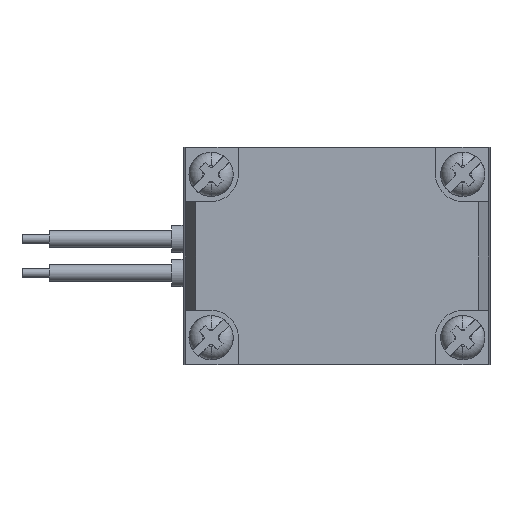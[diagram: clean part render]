
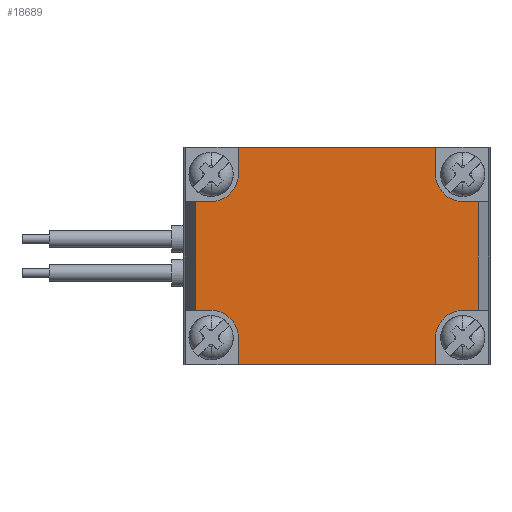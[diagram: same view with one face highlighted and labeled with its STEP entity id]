
A CAD part, left-side view. The second image highlights one B-rep face of the part: STEP entity #18689.
In plain terms, the highlighted planar face has unit normal (-1, 0, 0).
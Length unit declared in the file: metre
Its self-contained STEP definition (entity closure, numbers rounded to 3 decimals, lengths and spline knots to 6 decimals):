
#367 = DIRECTION ( 'NONE',  ( 0., 0., 1. ) ) ;
#560 = EDGE_CURVE ( 'NONE', #3884, #12770, #21300, .T. ) ;
#975 = VERTEX_POINT ( 'NONE', #4862 ) ;
#1102 = CARTESIAN_POINT ( 'NONE',  ( -0.048, 0.008, 0.012 ) ) ;
#1177 = CIRCLE ( 'NONE', #15801, 0.004 ) ;
#1249 = EDGE_CURVE ( 'NONE', #15732, #3884, #14520, .T. ) ;
#1328 = LINE ( 'NONE', #6517, #17951 ) ;
#1416 = CARTESIAN_POINT ( 'NONE',  ( -0.048, 0.0225, -0.016 ) ) ;
#1540 = ORIENTED_EDGE ( 'NONE', *, *, #1249, .T. ) ;
#1970 = CARTESIAN_POINT ( 'NONE',  ( -0.048, 0.00175, 0.008 ) ) ;
#2119 = VECTOR ( 'NONE', #19009, 1. ) ;
#2157 = CIRCLE ( 'NONE', #19751, 0.004 ) ;
#2586 = DIRECTION ( 'NONE',  ( -1., 0., 0. ) ) ;
#2788 = CARTESIAN_POINT ( 'NONE',  ( -0.048, 0.0225, 0.016 ) ) ;
#3224 = VERTEX_POINT ( 'NONE', #12723 ) ;
#3582 = ORIENTED_EDGE ( 'NONE', *, *, #18703, .T. ) ;
#3604 = EDGE_CURVE ( 'NONE', #5438, #17096, #8222, .T. ) ;
#3611 = ORIENTED_EDGE ( 'NONE', *, *, #16329, .T. ) ;
#3884 = VERTEX_POINT ( 'NONE', #1102 ) ;
#3910 = CARTESIAN_POINT ( 'NONE',  ( -0.048, 0.008, 0. ) ) ;
#3934 = VERTEX_POINT ( 'NONE', #18040 ) ;
#3965 = CARTESIAN_POINT ( 'NONE',  ( -0.048, 0.0225, 0.008 ) ) ;
#4022 = LINE ( 'NONE', #15390, #13353 ) ;
#4364 = CARTESIAN_POINT ( 'NONE',  ( -0.048, 0.004, -0.008 ) ) ;
#4385 = LINE ( 'NONE', #12797, #13716 ) ;
#4502 = EDGE_CURVE ( 'NONE', #17096, #3224, #1177, .T. ) ;
#4595 = EDGE_CURVE ( 'NONE', #20450, #8003, #4385, .T. ) ;
#4862 = CARTESIAN_POINT ( 'NONE',  ( -0.048, 0.041, 0.008 ) ) ;
#4984 = ORIENTED_EDGE ( 'NONE', *, *, #6963, .T. ) ;
#5312 = CARTESIAN_POINT ( 'NONE',  ( -0.048, 0.040872, -0.008 ) ) ;
#5438 = VERTEX_POINT ( 'NONE', #10319 ) ;
#5957 = CIRCLE ( 'NONE', #20606, 0.004 ) ;
#5968 = ORIENTED_EDGE ( 'NONE', *, *, #4502, .T. ) ;
#6328 = VERTEX_POINT ( 'NONE', #8244 ) ;
#6517 = CARTESIAN_POINT ( 'NONE',  ( -0.048, 0.037, -0.013999 ) ) ;
#6963 = EDGE_CURVE ( 'NONE', #7661, #5438, #11680, .T. ) ;
#7023 = CARTESIAN_POINT ( 'NONE',  ( -0.048, 0.041, -0.011998 ) ) ;
#7045 = DIRECTION ( 'NONE',  ( 0., 1., 0. ) ) ;
#7078 = LINE ( 'NONE', #22774, #2119 ) ;
#7352 = ORIENTED_EDGE ( 'NONE', *, *, #9888, .F. ) ;
#7398 = VECTOR ( 'NONE', #12090, 1. ) ;
#7471 = CARTESIAN_POINT ( 'NONE',  ( -0.048, 0.004, -0.012 ) ) ;
#7595 = EDGE_CURVE ( 'NONE', #3934, #9754, #16010, .T. ) ;
#7661 = VERTEX_POINT ( 'NONE', #10939 ) ;
#7674 = DIRECTION ( 'NONE',  ( 0., 0., 1. ) ) ;
#8003 = VERTEX_POINT ( 'NONE', #19740 ) ;
#8222 = LINE ( 'NONE', #13339, #21944 ) ;
#8244 = CARTESIAN_POINT ( 'NONE',  ( -0.048, 0.00175, -0.008 ) ) ;
#8286 = EDGE_CURVE ( 'NONE', #3934, #10150, #18020, .T. ) ;
#8398 = LINE ( 'NONE', #17496, #22718 ) ;
#8432 = EDGE_CURVE ( 'NONE', #11837, #6328, #4022, .T. ) ;
#8878 = DIRECTION ( 'NONE',  ( 0., 0., 1. ) ) ;
#8957 = LINE ( 'NONE', #3965, #14498 ) ;
#9311 = CARTESIAN_POINT ( 'NONE',  ( -0.048, 0.008, 0.016 ) ) ;
#9332 = DIRECTION ( 'NONE',  ( 0., 0., 1. ) ) ;
#9410 = ORIENTED_EDGE ( 'NONE', *, *, #560, .T. ) ;
#9754 = VERTEX_POINT ( 'NONE', #22851 ) ;
#9813 = ORIENTED_EDGE ( 'NONE', *, *, #11884, .T. ) ;
#9888 = EDGE_CURVE ( 'NONE', #9754, #3224, #1328, .T. ) ;
#10150 = VERTEX_POINT ( 'NONE', #15853 ) ;
#10151 = DIRECTION ( 'NONE',  ( 1., 0., 0. ) ) ;
#10319 = CARTESIAN_POINT ( 'NONE',  ( -0.048, 0.04325, -0.008 ) ) ;
#10558 = ORIENTED_EDGE ( 'NONE', *, *, #8286, .T. ) ;
#10939 = CARTESIAN_POINT ( 'NONE',  ( -0.048, 0.04325, 0.008 ) ) ;
#11008 = DIRECTION ( 'NONE',  ( 0., 0., 1. ) ) ;
#11058 = VECTOR ( 'NONE', #7045, 1. ) ;
#11511 = DIRECTION ( 'NONE',  ( 1., 0., 0. ) ) ;
#11680 = LINE ( 'NONE', #17822, #21032 ) ;
#11837 = VERTEX_POINT ( 'NONE', #4364 ) ;
#11884 = EDGE_CURVE ( 'NONE', #8003, #975, #5957, .T. ) ;
#11901 = ORIENTED_EDGE ( 'NONE', *, *, #23088, .T. ) ;
#12090 = DIRECTION ( 'NONE',  ( 0., 1., 0. ) ) ;
#12326 = LINE ( 'NONE', #2788, #7398 ) ;
#12723 = CARTESIAN_POINT ( 'NONE',  ( -0.048, 0.037, -0.011998 ) ) ;
#12770 = VERTEX_POINT ( 'NONE', #9311 ) ;
#12797 = CARTESIAN_POINT ( 'NONE',  ( -0.048, 0.037, 0. ) ) ;
#12909 = EDGE_CURVE ( 'NONE', #15701, #15732, #7078, .T. ) ;
#13189 = AXIS2_PLACEMENT_3D ( 'NONE', #22696, #11511, #367 ) ;
#13280 = AXIS2_PLACEMENT_3D ( 'NONE', #23084, #2586, #15630 ) ;
#13339 = CARTESIAN_POINT ( 'NONE',  ( -0.048, 0.0225, -0.008 ) ) ;
#13353 = VECTOR ( 'NONE', #15471, 1. ) ;
#13413 = ORIENTED_EDGE ( 'NONE', *, *, #23374, .T. ) ;
#13716 = VECTOR ( 'NONE', #24007, 1. ) ;
#13755 = PLANE ( 'NONE',  #13280 ) ;
#13939 = FACE_OUTER_BOUND ( 'NONE', #14087, .T. ) ;
#14087 = EDGE_LOOP ( 'NONE', ( #5968, #7352, #20054, #10558, #11901, #23246, #3582, #16632, #1540, #9410, #13413, #20697, #9813, #3611, #4984, #17120 ) ) ;
#14498 = VECTOR ( 'NONE', #17000, 1. ) ;
#14520 = CIRCLE ( 'NONE', #13189, 0.004 ) ;
#15390 = CARTESIAN_POINT ( 'NONE',  ( -0.048, 0.0225, -0.008 ) ) ;
#15471 = DIRECTION ( 'NONE',  ( 0., -1., 0. ) ) ;
#15630 = DIRECTION ( 'NONE',  ( 0., -1., 0. ) ) ;
#15701 = VERTEX_POINT ( 'NONE', #1970 ) ;
#15732 = VERTEX_POINT ( 'NONE', #20728 ) ;
#15801 = AXIS2_PLACEMENT_3D ( 'NONE', #7023, #20064, #8878 ) ;
#15853 = CARTESIAN_POINT ( 'NONE',  ( -0.048, 0.008, -0.012 ) ) ;
#16010 = LINE ( 'NONE', #1416, #11058 ) ;
#16295 = VECTOR ( 'NONE', #11008, 1. ) ;
#16329 = EDGE_CURVE ( 'NONE', #975, #7661, #8957, .T. ) ;
#16545 = CARTESIAN_POINT ( 'NONE',  ( -0.048, 0.008, 0. ) ) ;
#16632 = ORIENTED_EDGE ( 'NONE', *, *, #12909, .T. ) ;
#17000 = DIRECTION ( 'NONE',  ( 0., 1., 0. ) ) ;
#17096 = VERTEX_POINT ( 'NONE', #5312 ) ;
#17120 = ORIENTED_EDGE ( 'NONE', *, *, #3604, .T. ) ;
#17496 = CARTESIAN_POINT ( 'NONE',  ( -0.048, 0.00175, 0. ) ) ;
#17822 = CARTESIAN_POINT ( 'NONE',  ( -0.048, 0.04325, 0. ) ) ;
#17951 = VECTOR ( 'NONE', #19564, 1. ) ;
#18020 = LINE ( 'NONE', #3910, #21263 ) ;
#18040 = CARTESIAN_POINT ( 'NONE',  ( -0.048, 0.008, -0.016 ) ) ;
#18689 = ADVANCED_FACE ( 'NONE', ( #13939 ), #13755, .T. ) ;
#18703 = EDGE_CURVE ( 'NONE', #6328, #15701, #8398, .T. ) ;
#19009 = DIRECTION ( 'NONE',  ( 0., 1., 0. ) ) ;
#19564 = DIRECTION ( 'NONE',  ( 0., 0., 1. ) ) ;
#19740 = CARTESIAN_POINT ( 'NONE',  ( -0.048, 0.037, 0.012 ) ) ;
#19751 = AXIS2_PLACEMENT_3D ( 'NONE', #7471, #20504, #9332 ) ;
#19792 = DIRECTION ( 'NONE',  ( 0., 0., -1. ) ) ;
#20054 = ORIENTED_EDGE ( 'NONE', *, *, #7595, .F. ) ;
#20064 = DIRECTION ( 'NONE',  ( 1., 0., 0. ) ) ;
#20450 = VERTEX_POINT ( 'NONE', #23077 ) ;
#20504 = DIRECTION ( 'NONE',  ( 1., 0., 0. ) ) ;
#20606 = AXIS2_PLACEMENT_3D ( 'NONE', #21350, #10151, #23221 ) ;
#20697 = ORIENTED_EDGE ( 'NONE', *, *, #4595, .T. ) ;
#20728 = CARTESIAN_POINT ( 'NONE',  ( -0.048, 0.004, 0.008 ) ) ;
#21032 = VECTOR ( 'NONE', #19792, 1. ) ;
#21263 = VECTOR ( 'NONE', #7674, 1. ) ;
#21290 = DIRECTION ( 'NONE',  ( 0., 0., 1. ) ) ;
#21300 = LINE ( 'NONE', #16545, #16295 ) ;
#21350 = CARTESIAN_POINT ( 'NONE',  ( -0.048, 0.041, 0.012 ) ) ;
#21944 = VECTOR ( 'NONE', #22649, 1. ) ;
#22649 = DIRECTION ( 'NONE',  ( 0., -1., 0. ) ) ;
#22696 = CARTESIAN_POINT ( 'NONE',  ( -0.048, 0.004, 0.012 ) ) ;
#22718 = VECTOR ( 'NONE', #21290, 1. ) ;
#22774 = CARTESIAN_POINT ( 'NONE',  ( -0.048, 0.0225, 0.008 ) ) ;
#22851 = CARTESIAN_POINT ( 'NONE',  ( -0.048, 0.037, -0.016 ) ) ;
#23077 = CARTESIAN_POINT ( 'NONE',  ( -0.048, 0.037, 0.016 ) ) ;
#23084 = CARTESIAN_POINT ( 'NONE',  ( -0.048, 0.04325, -0.016 ) ) ;
#23088 = EDGE_CURVE ( 'NONE', #10150, #11837, #2157, .T. ) ;
#23221 = DIRECTION ( 'NONE',  ( 0., 0., 1. ) ) ;
#23246 = ORIENTED_EDGE ( 'NONE', *, *, #8432, .T. ) ;
#23374 = EDGE_CURVE ( 'NONE', #12770, #20450, #12326, .T. ) ;
#24007 = DIRECTION ( 'NONE',  ( 0., 0., -1. ) ) ;
